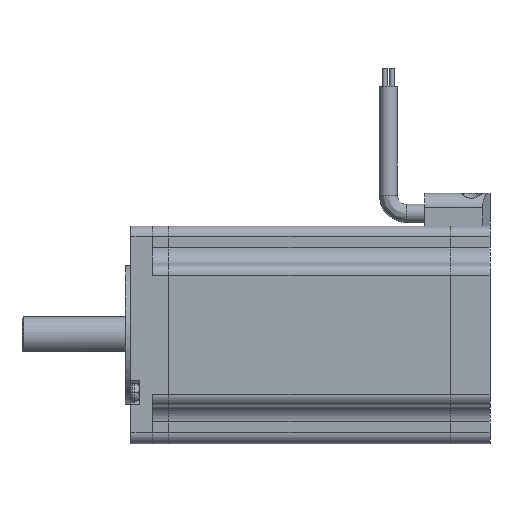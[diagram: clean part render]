
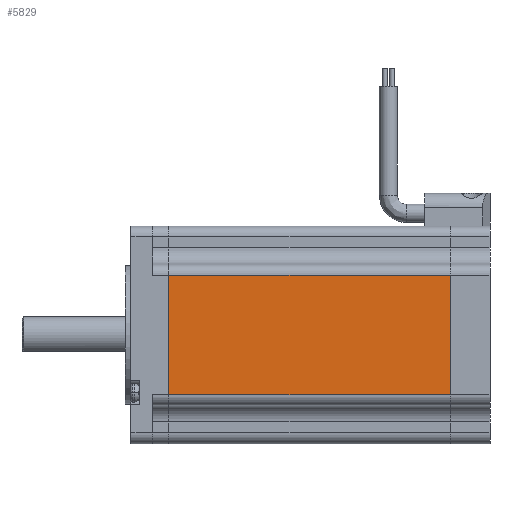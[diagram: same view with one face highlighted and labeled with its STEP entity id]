
A CAD part, left-side view. The second image highlights one B-rep face of the part: STEP entity #5829.
In plain terms, the highlighted planar face has unit normal (-1, 0, 0).
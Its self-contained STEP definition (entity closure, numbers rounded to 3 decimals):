
#12 = DIRECTION ( 'NONE',  ( 0., 0., -1. ) ) ;
#69 = AXIS2_PLACEMENT_3D ( 'NONE', #9986, #5170, #357 ) ;
#357 = DIRECTION ( 'NONE',  ( 0., 0., -1. ) ) ;
#537 = CARTESIAN_POINT ( 'NONE',  ( -28.2, 77.5, -16.1 ) ) ;
#604 = VERTEX_POINT ( 'NONE', #7738 ) ;
#649 = CARTESIAN_POINT ( 'NONE',  ( -28.2, 0., 16.9 ) ) ;
#923 = DIRECTION ( 'NONE',  ( 0., -1., 0. ) ) ;
#1133 = LINE ( 'NONE', #2498, #9428 ) ;
#1966 = VERTEX_POINT ( 'NONE', #649 ) ;
#2498 = CARTESIAN_POINT ( 'NONE',  ( -28.2, 77.5, -23.6 ) ) ;
#2555 = VECTOR ( 'NONE', #12, 1000. ) ;
#3390 = LINE ( 'NONE', #9305, #7433 ) ;
#3519 = PLANE ( 'NONE',  #69 ) ;
#3962 = ORIENTED_EDGE ( 'NONE', *, *, #7915, .F. ) ;
#4036 = CARTESIAN_POINT ( 'NONE',  ( -28.2, 0., 19.9 ) ) ;
#4251 = ORIENTED_EDGE ( 'NONE', *, *, #6830, .F. ) ;
#4494 = ORIENTED_EDGE ( 'NONE', *, *, #10042, .F. ) ;
#4714 = LINE ( 'NONE', #4036, #2555 ) ;
#4877 = LINE ( 'NONE', #5710, #6744 ) ;
#4928 = FACE_OUTER_BOUND ( 'NONE', #6450, .T. ) ;
#5170 = DIRECTION ( 'NONE',  ( 1., 0., 0. ) ) ;
#5303 = DIRECTION ( 'NONE',  ( 0., 1., 0. ) ) ;
#5710 = CARTESIAN_POINT ( 'NONE',  ( -28.2, 77.5, 16.9 ) ) ;
#5722 = DIRECTION ( 'NONE',  ( 0., 0., 1. ) ) ;
#5829 = ADVANCED_FACE ( 'NONE', ( #4928 ), #3519, .F. ) ;
#6151 = EDGE_CURVE ( 'NONE', #6880, #6511, #3390, .T. ) ;
#6450 = EDGE_LOOP ( 'NONE', ( #9404, #4494, #4251, #3962 ) ) ;
#6511 = VERTEX_POINT ( 'NONE', #537 ) ;
#6744 = VECTOR ( 'NONE', #923, 1000. ) ;
#6830 = EDGE_CURVE ( 'NONE', #604, #1966, #4877, .T. ) ;
#6880 = VERTEX_POINT ( 'NONE', #8184 ) ;
#7433 = VECTOR ( 'NONE', #5303, 1000. ) ;
#7738 = CARTESIAN_POINT ( 'NONE',  ( -28.2, 77.5, 16.9 ) ) ;
#7915 = EDGE_CURVE ( 'NONE', #6511, #604, #1133, .T. ) ;
#8184 = CARTESIAN_POINT ( 'NONE',  ( -28.2, 0., -16.1 ) ) ;
#9305 = CARTESIAN_POINT ( 'NONE',  ( -28.2, 77.5, -16.1 ) ) ;
#9404 = ORIENTED_EDGE ( 'NONE', *, *, #6151, .F. ) ;
#9428 = VECTOR ( 'NONE', #5722, 1000. ) ;
#9986 = CARTESIAN_POINT ( 'NONE',  ( -28.2, 77.5, 19.9 ) ) ;
#10042 = EDGE_CURVE ( 'NONE', #1966, #6880, #4714, .T. ) ;
